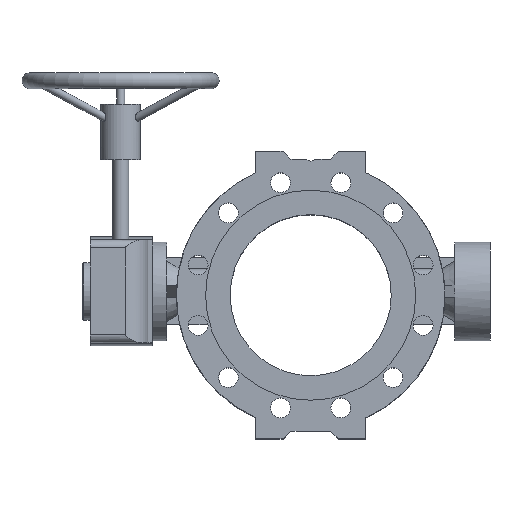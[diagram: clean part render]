
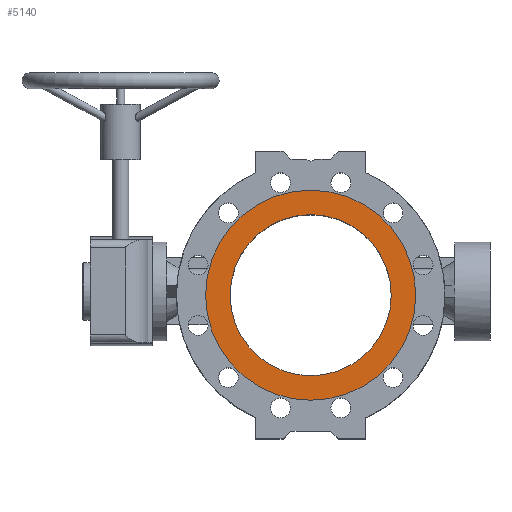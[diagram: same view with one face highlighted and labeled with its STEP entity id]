
A CAD part, top view. The second image highlights one B-rep face of the part: STEP entity #5140.
In plain terms, the highlighted planar face has unit normal (0, 0, 1).
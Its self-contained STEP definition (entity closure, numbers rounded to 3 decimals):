
#436 = VERTEX_POINT ( 'NONE', #5949 ) ;
#448 = VERTEX_POINT ( 'NONE', #5961 ) ;
#541 = AXIS2_PLACEMENT_3D ( 'NONE', #13227, #13214, #13212 ) ;
#591 = AXIS2_PLACEMENT_3D ( 'NONE', #4543, #4542, #4541 ) ;
#607 = AXIS2_PLACEMENT_3D ( 'NONE', #4645, #4643, #4642 ) ;
#3378 = EDGE_CURVE ( 'NONE', #436, #436, #15531, .T. ) ;
#3406 = EDGE_CURVE ( 'NONE', #448, #448, #15572, .T. ) ;
#4541 = DIRECTION ( 'NONE',  ( 0., 1., 0. ) ) ;
#4542 = DIRECTION ( 'NONE',  ( 0., 0., -1. ) ) ;
#4543 = CARTESIAN_POINT ( 'NONE',  ( 0., -5., 115. ) ) ;
#4642 = DIRECTION ( 'NONE',  ( 0., 1., 0. ) ) ;
#4643 = DIRECTION ( 'NONE',  ( 0., 0., -1. ) ) ;
#4645 = CARTESIAN_POINT ( 'NONE',  ( 0., -5., 115. ) ) ;
#5140 = ADVANCED_FACE ( 'NONE', ( #15753, #15761 ), #13223, .F. ) ;
#5949 = CARTESIAN_POINT ( 'NONE',  ( 0., 128., 115. ) ) ;
#5961 = CARTESIAN_POINT ( 'NONE',  ( 0., 97., 115. ) ) ;
#8071 = EDGE_LOOP ( 'NONE', ( #16513 ) ) ;
#8093 = EDGE_LOOP ( 'NONE', ( #16512 ) ) ;
#13212 = DIRECTION ( 'NONE',  ( 0., 1., 0. ) ) ;
#13214 = DIRECTION ( 'NONE',  ( 0., 0., -1. ) ) ;
#13223 = PLANE ( 'NONE',  #541 ) ;
#13227 = CARTESIAN_POINT ( 'NONE',  ( 0., -5., 115. ) ) ;
#15531 = CIRCLE ( 'NONE', #607, 133. ) ;
#15572 = CIRCLE ( 'NONE', #591, 102. ) ;
#15753 = FACE_OUTER_BOUND ( 'NONE', #8071, .T. ) ;
#15761 = FACE_BOUND ( 'NONE', #8093, .T. ) ;
#16512 = ORIENTED_EDGE ( 'NONE', *, *, #3406, .T. ) ;
#16513 = ORIENTED_EDGE ( 'NONE', *, *, #3378, .F. ) ;
